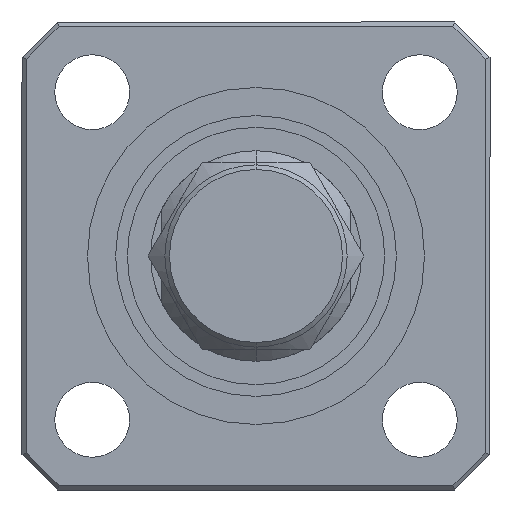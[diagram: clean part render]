
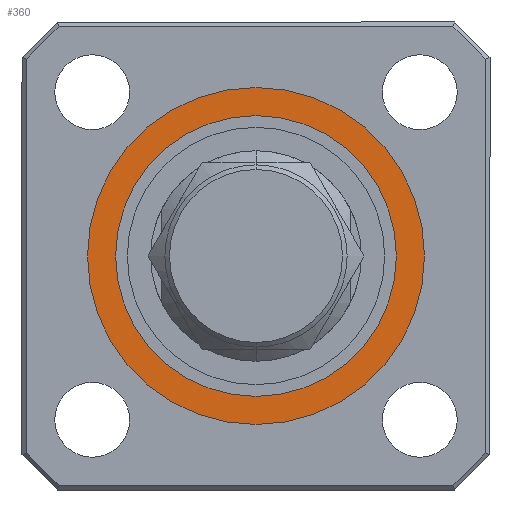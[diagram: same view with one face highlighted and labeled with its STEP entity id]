
A CAD part, front view. The second image highlights one B-rep face of the part: STEP entity #360.
In plain terms, the highlighted planar face has unit normal (0, -1, 0).
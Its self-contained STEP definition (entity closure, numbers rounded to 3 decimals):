
#56 = CARTESIAN_POINT ( 'NONE',  ( 10., 0.8, 4. ) ) ;
#69 = DIRECTION ( 'NONE',  ( 0., -1., 0. ) ) ;
#105 = CARTESIAN_POINT ( 'NONE',  ( 10., 0.8, 10. ) ) ;
#140 = DIRECTION ( 'NONE',  ( 0., -1., 0. ) ) ;
#230 = ORIENTED_EDGE ( 'NONE', *, *, #1504, .T. ) ;
#360 = ADVANCED_FACE ( 'NONE', ( #3653, #4852 ), #3634, .T. ) ;
#402 = VERTEX_POINT ( 'NONE', #4484 ) ;
#696 = CARTESIAN_POINT ( 'NONE',  ( 10., 0.8, 10. ) ) ;
#828 = CARTESIAN_POINT ( 'NONE',  ( 10., 0.8, 16. ) ) ;
#1025 = CARTESIAN_POINT ( 'NONE',  ( 10., 0.8, 10. ) ) ;
#1432 = AXIS2_PLACEMENT_3D ( 'NONE', #3432, #69, #2270 ) ;
#1454 = DIRECTION ( 'NONE',  ( 0., 0., -1. ) ) ;
#1504 = EDGE_CURVE ( 'NONE', #402, #1962, #4867, .T. ) ;
#1755 = VERTEX_POINT ( 'NONE', #828 ) ;
#1881 = EDGE_CURVE ( 'NONE', #1962, #402, #4962, .T. ) ;
#1948 = VERTEX_POINT ( 'NONE', #56 ) ;
#1962 = VERTEX_POINT ( 'NONE', #3100 ) ;
#2234 = DIRECTION ( 'NONE',  ( 0., -1., 0. ) ) ;
#2270 = DIRECTION ( 'NONE',  ( 0., 0., -1. ) ) ;
#2697 = AXIS2_PLACEMENT_3D ( 'NONE', #1025, #140, #3211 ) ;
#2701 = CIRCLE ( 'NONE', #1432, 6. ) ;
#2766 = CIRCLE ( 'NONE', #4939, 6. ) ;
#2877 = EDGE_LOOP ( 'NONE', ( #4526, #230 ) ) ;
#3100 = CARTESIAN_POINT ( 'NONE',  ( 10., 0.8, 2.8 ) ) ;
#3211 = DIRECTION ( 'NONE',  ( 0., 0., -1. ) ) ;
#3432 = CARTESIAN_POINT ( 'NONE',  ( 10., 0.8, 10. ) ) ;
#3605 = AXIS2_PLACEMENT_3D ( 'NONE', #4440, #2234, #4497 ) ;
#3634 = PLANE ( 'NONE',  #2697 ) ;
#3653 = FACE_BOUND ( 'NONE', #4811, .T. ) ;
#3960 = ORIENTED_EDGE ( 'NONE', *, *, #4381, .F. ) ;
#4085 = DIRECTION ( 'NONE',  ( 0., -1., 0. ) ) ;
#4196 = EDGE_CURVE ( 'NONE', #1948, #1755, #2701, .T. ) ;
#4381 = EDGE_CURVE ( 'NONE', #1755, #1948, #2766, .T. ) ;
#4405 = AXIS2_PLACEMENT_3D ( 'NONE', #105, #4085, #1454 ) ;
#4440 = CARTESIAN_POINT ( 'NONE',  ( 10., 0.8, 10. ) ) ;
#4484 = CARTESIAN_POINT ( 'NONE',  ( 10., 0.8, 17.2 ) ) ;
#4497 = DIRECTION ( 'NONE',  ( 0., 0., -1. ) ) ;
#4526 = ORIENTED_EDGE ( 'NONE', *, *, #1881, .T. ) ;
#4811 = EDGE_LOOP ( 'NONE', ( #5310, #3960 ) ) ;
#4852 = FACE_OUTER_BOUND ( 'NONE', #2877, .T. ) ;
#4867 = CIRCLE ( 'NONE', #4405, 7.2 ) ;
#4939 = AXIS2_PLACEMENT_3D ( 'NONE', #696, #5076, #5113 ) ;
#4962 = CIRCLE ( 'NONE', #3605, 7.2 ) ;
#5076 = DIRECTION ( 'NONE',  ( 0., -1., 0. ) ) ;
#5113 = DIRECTION ( 'NONE',  ( 0., 0., -1. ) ) ;
#5310 = ORIENTED_EDGE ( 'NONE', *, *, #4196, .F. ) ;
